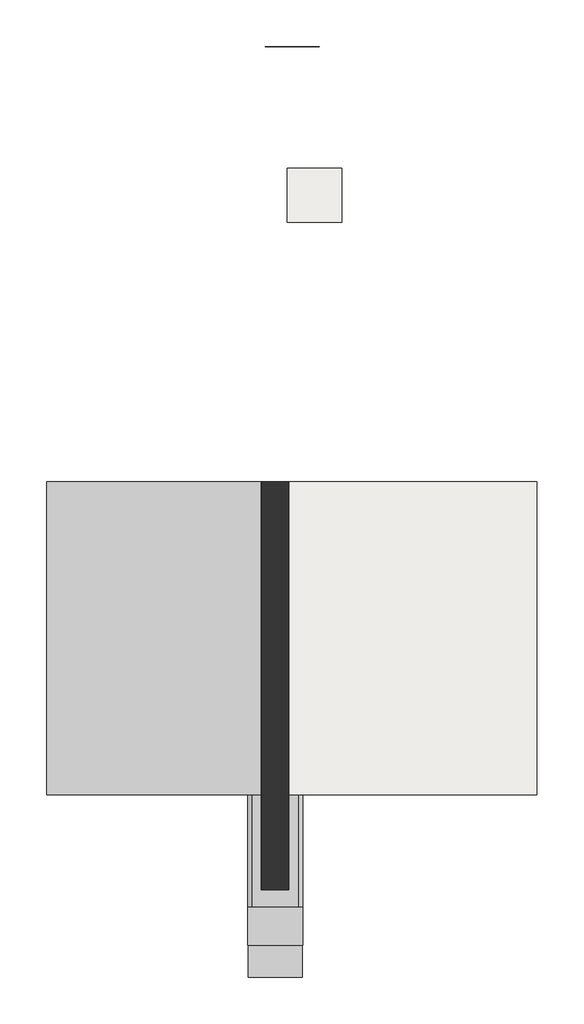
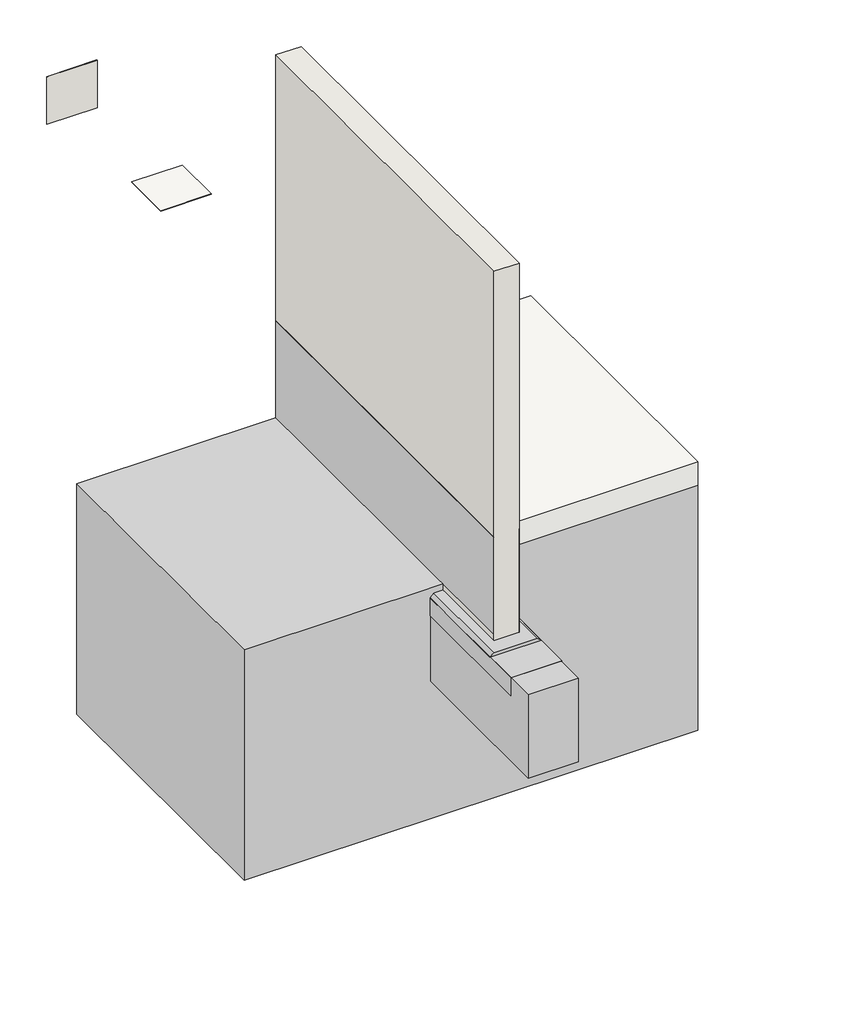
# One storey: 2 slabs, 2 walls, 1 proxy.
"""IFC4 building model written with IfcOpenShell, lengths in millimetres."""

from ifc_helpers import new_model, si_unit, frame, origin, place, context, project, spatial, polyline, outline, extrude, transform, mapped, element, save
from components import generic_models_f88ea9ae

model = new_model("IFC4")

# Units and contexts
model_context = context("Model", 3, world=origin())
ifc_project = project(units=[si_unit("LENGTHUNIT", "METRE", prefix="MILLI")], contexts=[model_context])

# Site, building, storey
site = spatial("IfcSite", under=ifc_project)
building = spatial("IfcBuilding", under=site)
storey = spatial("IfcBuildingStorey", under=building, Name="ARQ Térreo", Elevation=-2.523798)

# Proxy
placement = place(None, origin())
generic_models_shape = generic_models_f88ea9ae(model_context)
element("IfcBuildingElementProxy", 1, Name="IMPER:IMPER:433934 : IMPER:IMPER:433934", ObjectType="IMPER:IMPER:433934 : IMPER:IMPER:433934", at=placement, inside=storey, context=model_context, shape_type="MappedRepresentation", body=[
    mapped(generic_models_shape, transform((0.0, 0.0, 0.0), x_axis=(1.0, 0.0, 0.0), y_axis=(0.0, 1.0, 0.0), z_axis=(0.0, 0.0, 1.0))),
])

# Slabs
element("IfcSlab", 2, ObjectType="IMPH_VP BALDRAME", at=placement, inside=storey, context=model_context, shape_type="SweptSolid", body=[
    extrude(outline(polyline([(-339.4717852, 2454.1249925), (60.5282148, 2454.1249925), (60.5282148, 2054.1249925), (-339.4717852, 2054.1249925), (-339.4717852, 2454.1249925)])), frame((0.0, 0.0, -5.523798), z_axis=(0.0, 0.0, 1.0), x_axis=(1.0, 0.0, 0.0)), (0.0, 0.0, 1.0), 3.0),
])
element("IfcSlab", 3, ObjectType="Piso:LAJE CONCRETO", at=placement, inside=storey, context=model_context, shape_type="SweptSolid", body=[
    extrude(outline(polyline([(-326.9704105, 145.8700195), (1498.0295895, 145.8700195), (1498.0295895, -2154.1299805), (-326.9704105, -2154.1299805), (-326.9704105, 145.8700195)])), frame((0.0, 0.0, -402.523798), z_axis=(0.0, 0.0, 1.0), x_axis=(1.0, 0.0, 0.0)), (0.0, 0.0, 1.0), 200.0),
])

# Walls
element("IfcWall", 4, ObjectType="IMPV_VP BALDRAME", at=placement, inside=storey, context=model_context, shape_type="SweptSolid", body=[
    extrude(outline(polyline([(-101.9704105, 3344.3700195), (-501.9704105, 3344.3700195), (-501.9704105, 3347.3700195), (-101.9704105, 3347.3700195), (-101.9704105, 3344.3700195)])), frame((0.0, 0.0, -2.523798), z_axis=(0.0, 0.0, 1.0), x_axis=(1.0, 0.0, 0.0)), (0.0, 0.0, 1.0), 400.0),
])
element("IfcWall", 5, ObjectType="Alvenaria - 200 mm", at=placement, inside=storey, context=model_context, shape_type="SweptSolid", body=[
    extrude(outline(polyline([(-526.9704105, -2854.1299805), (-526.9704105, 145.8700195), (-326.9704105, 145.8700195), (-326.9704105, -2854.1299805), (-526.9704105, -2854.1299805)])), frame((0.0, 0.0, -572.523798), z_axis=(0.0, 0.0, 1.0), x_axis=(1.0, 0.0, 0.0)), (0.0, 0.0, 1.0), 3101.8542292),
])

save(model, "model.ifc")
